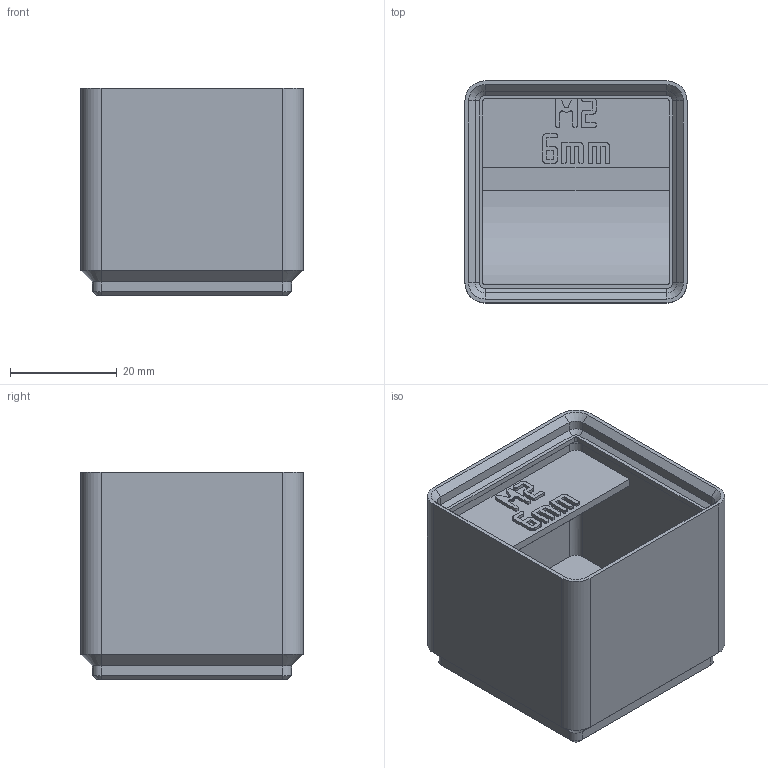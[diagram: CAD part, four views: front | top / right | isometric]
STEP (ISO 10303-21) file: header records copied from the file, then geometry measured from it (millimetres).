
FILE_DESCRIPTION(('Open CASCADE Model'),'2;1');
FILE_NAME('Open CASCADE Shape Model','2026-11-03T10:22:58',('Author'),( 'Open CASCADE'),'Open CASCADE STEP processor 8.0','build123d', 'Unknown');
FILE_SCHEMA(('AUTOMOTIVE_DESIGN { 1 0 10303 214 1 1 1 1 }'));
Length unit declared in the file: millimetre
Products named in the file (1): COMPOUND
Bounding box: 41.5 x 41.5 x 38.8 mm (x, y, z)
Volume: 28172.9 mm3; surface area: 14234.9 mm2
Topology: 1 solids, 1 shells, 607 faces, 1735 edges, 1138 vertices
Faces by surface type: plane 564, cylinder 23, cone 20
Entity records: 40888 total; most frequent: CARTESIAN_POINT 8413, DIRECTION 5235, LINE 3891, VECTOR 3891, ORIENTED_EDGE 3470, PCURVE 3470, DEFINITIONAL_REPRESENTATION 3470, EDGE_CURVE 1735
